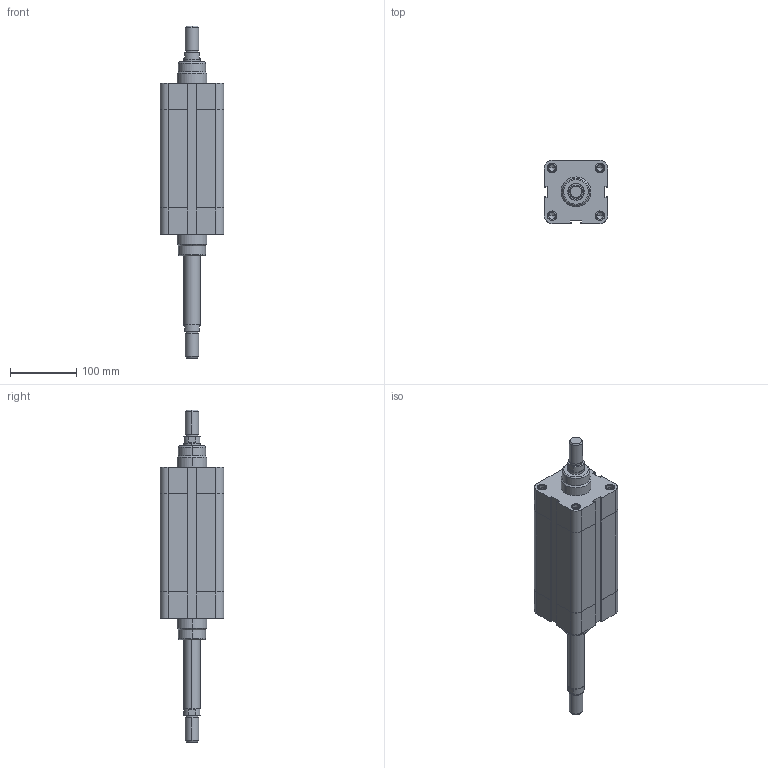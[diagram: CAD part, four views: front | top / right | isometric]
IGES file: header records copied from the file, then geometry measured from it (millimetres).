
Global section: file name: No Iges File Name specified; native system: AutoDesk Inventor R6.1; preprocessor: AutoDesk Inventor Iges Exporter R6.1; author: No Author specified; organization: No Organization specified; date: 20040107.171143; units: millimetre
Bounding box: 95.5 x 95.5 x 500 mm (x, y, z)
Volume: 2158002.5 mm3; surface area: 191665.4 mm2
Topology: 2 solids, 2 shells, 236 faces, 564 edges, 356 vertices
Faces by surface type: plane 80, bspline 62, cylinder 42, revolution 32, cone 16, torus 4
